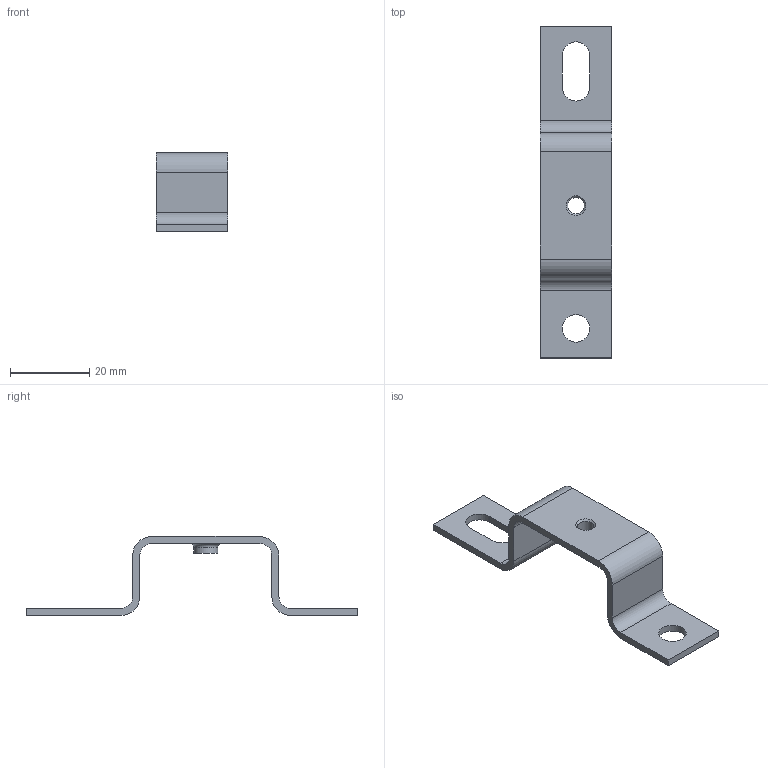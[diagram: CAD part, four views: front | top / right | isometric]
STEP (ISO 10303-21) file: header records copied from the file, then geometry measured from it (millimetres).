
FILE_DESCRIPTION( ( 'STEP AP214' ), '1' );
FILE_NAME( 'p:/temp/worker_57/temp/exporttempdir_5744_234_guvyN/format_0/DRS20F(1).stp', '2022-05-25T16:39:45', ( 'License CC BY-ND 4.0' ), ( 'CADENAS' ), ' ', 'PARTsolutions', ' ' );
FILE_SCHEMA( ( 'AUTOMOTIVE_DESIGN { 1 0 10303 214 1 1 1 1 }' ) );
Length unit declared in the file: millimetre
Products named in the file (1): _DRS20F(1)
Bounding box: 18 x 84 x 20 mm (x, y, z)
Volume: 3451.9 mm3; surface area: 4472.2 mm2
Topology: 1 solids, 1 shells, 32 faces, 86 edges, 57 vertices
Faces by surface type: plane 17, cylinder 13, torus 1, cone 1
Full cylindrical faces by diameter (mm): 4.134 x1, 6 x1, 7 x1
Entity records: 1260 total; most frequent: DIRECTION 174, CARTESIAN_POINT 169, ORIENTED_EDGE 160, EDGE_CURVE 80, AXIS2_PLACEMENT_3D 61, VERTEX_POINT 56, LINE 52, VECTOR 52
